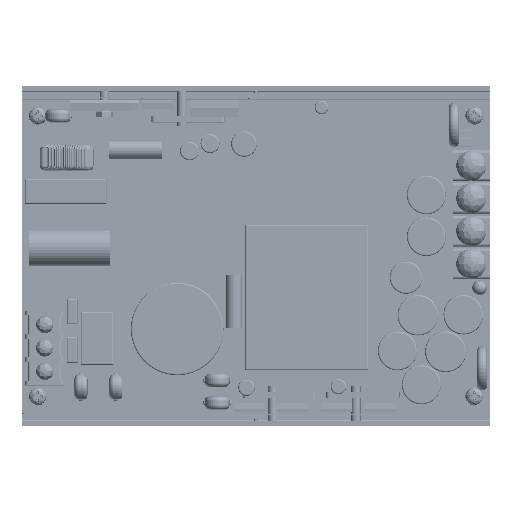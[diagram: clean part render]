
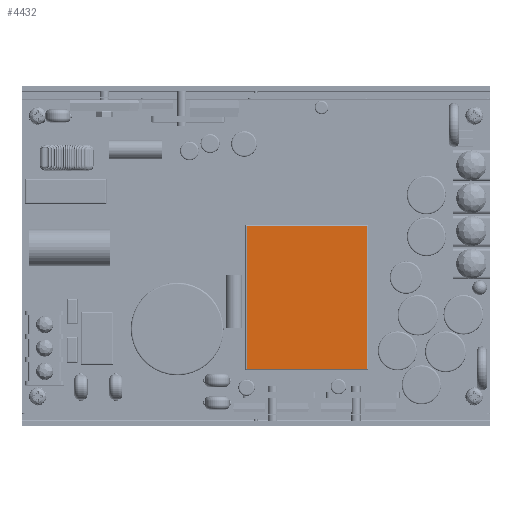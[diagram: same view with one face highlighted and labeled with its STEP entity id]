
A CAD part, top view. The second image highlights one B-rep face of the part: STEP entity #4432.
In plain terms, the highlighted planar face has unit normal (0, 0, 1).
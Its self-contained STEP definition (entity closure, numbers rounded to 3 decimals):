
#821=DIRECTION('',(0.,1.,0.));
#822=VECTOR('',#821,45.661);
#823=CARTESIAN_POINT('',(110.536,13.863,22.6));
#824=LINE('',#823,#822);
#844=DIRECTION('',(-1.,0.,0.));
#845=VECTOR('',#844,38.483);
#846=CARTESIAN_POINT('',(110.536,59.524,22.6));
#847=LINE('',#846,#845);
#867=DIRECTION('',(0.,-1.,0.));
#868=VECTOR('',#867,45.661);
#869=CARTESIAN_POINT('',(72.053,59.524,22.6));
#870=LINE('',#869,#868);
#890=DIRECTION('',(1.,0.,0.));
#891=VECTOR('',#890,38.483);
#892=CARTESIAN_POINT('',(72.053,13.863,22.6));
#893=LINE('',#892,#891);
#2930=CARTESIAN_POINT('',(110.536,13.863,22.6));
#2931=CARTESIAN_POINT('',(110.536,59.524,22.6));
#2932=VERTEX_POINT('',#2930);
#2933=VERTEX_POINT('',#2931);
#2936=CARTESIAN_POINT('',(72.053,59.524,22.6));
#2937=VERTEX_POINT('',#2936);
#2938=CARTESIAN_POINT('',(72.053,13.863,22.6));
#2939=VERTEX_POINT('',#2938);
#4418=CARTESIAN_POINT('',(91.295,36.694,22.6));
#4419=DIRECTION('',(0.,0.,1.));
#4420=DIRECTION('',(1.,0.,0.));
#4421=AXIS2_PLACEMENT_3D('',#4418,#4419,#4420);
#4422=PLANE('',#4421);
#4424=ORIENTED_EDGE('',*,*,#4423,.F.);
#4425=ORIENTED_EDGE('',*,*,#4404,.F.);
#4427=ORIENTED_EDGE('',*,*,#4426,.F.);
#4429=ORIENTED_EDGE('',*,*,#4428,.F.);
#4430=EDGE_LOOP('',(#4424,#4425,#4427,#4429));
#4431=FACE_OUTER_BOUND('',#4430,.F.);
#4404=EDGE_CURVE('',#2932,#2933,#824,.T.);
#4423=EDGE_CURVE('',#2933,#2937,#847,.T.);
#4426=EDGE_CURVE('',#2939,#2932,#893,.T.);
#4428=EDGE_CURVE('',#2937,#2939,#870,.T.);
#4432=ADVANCED_FACE('',(#4431),#4422,.T.);
